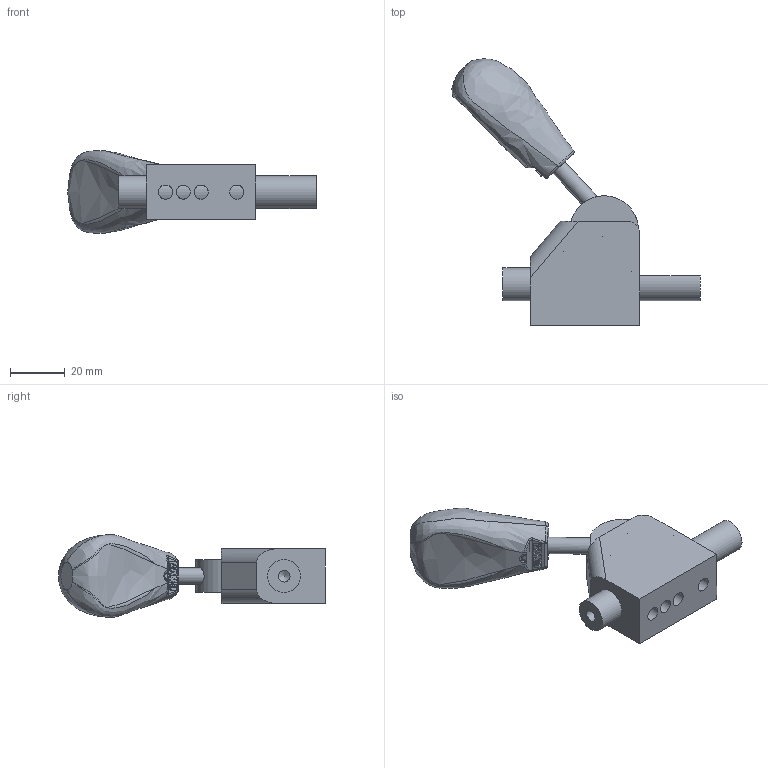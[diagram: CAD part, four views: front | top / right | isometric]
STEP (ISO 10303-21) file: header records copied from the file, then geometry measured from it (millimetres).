
FILE_DESCRIPTION(/* description */ (''),/* implementation_level */ '2;1');
FILE_NAME(/* name */ '\\192.168.1.150\pc03\Inventor\デュアルメカニズムクランプ最終\2017.10月　最新型\YSP-22ST\YSP-22ST-unclamp.stp',/* time_stamp */ '2024-05-14T16:12:06+09:00',/* author */ ('Backup'),/* organization */ (''),/* preprocessor_version */ 'ST-DEVELOPER v17',/* originating_system */ 'Autodesk Inventor 2019',/* authorisation */ '');
FILE_SCHEMA (('AUTOMOTIVE_DESIGN { 1 0 10303 214 3 1 1 }'));
Length unit declared in the file: millimetre
Products named in the file (6): Assembly10; ボディ 改修後; 50-30_VER4_PG2__12; Φ8×40ｼｬﾌﾄ; カムφ25; YO－M３５S スライドバー
Assembly tree (5 placements, depth 2):
  Assembly10
    ボディ 改修後
    50-30_VER4_PG2__12
    Φ8×40ｼｬﾌﾄ
    カムφ25
    YO－M３５S スライドバー
Bounding box: 90.7 x 97.25 x 30.18 mm (x, y, z)
Volume: 47731.8 mm3; surface area: 19195.4 mm2
Topology: 5 solids, 5 shells, 191 faces, 532 edges, 356 vertices
Faces by surface type: plane 91, cylinder 69, bspline 24, sphere 4, cone 3
Full cylindrical faces by diameter (mm): 0.01 x12, 1.306 x1, 3.2 x2, 4.3 x1, 5.1 x1, 5.2 x3, 6 x3, 12 x2
Entity records: 16572 total; most frequent: CARTESIAN_POINT 11467, ORIENTED_EDGE 1056, DIRECTION 973, EDGE_CURVE 528, VERTEX_POINT 356, AXIS2_PLACEMENT_3D 349, LINE 275, VECTOR 275
